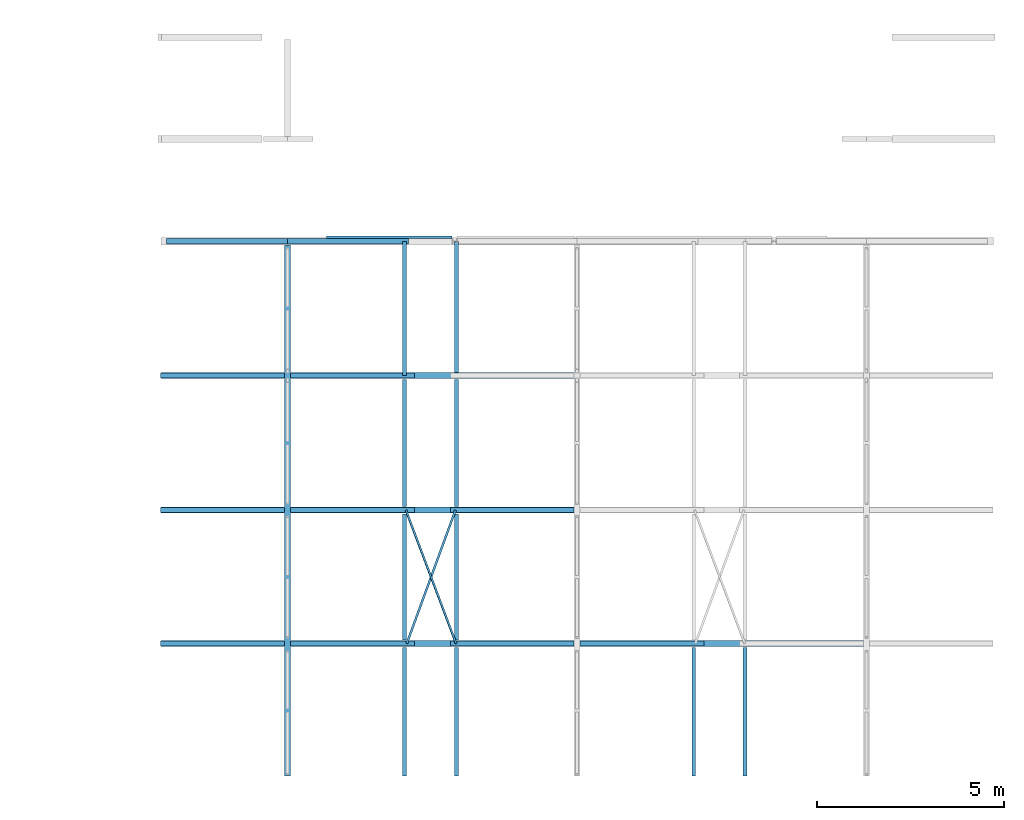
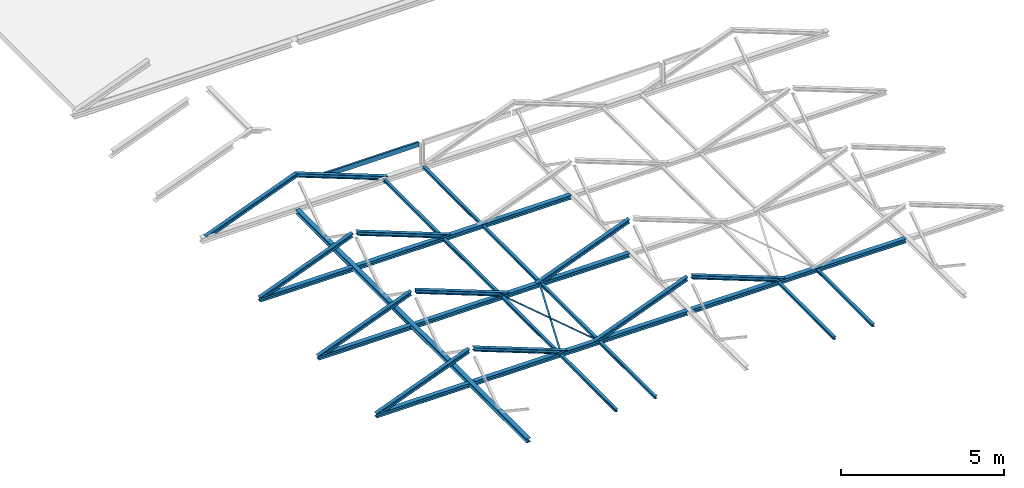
# One storey, part 2 of 10: 32 beams.
"""IFC2X3 building model written with IfcOpenShell, lengths in millimetres."""

from ifc_helpers import new_model, entity, si_unit, converted_unit, derived_unit, direction, frame, frame_2d, origin, place, context, subcontext, project, spatial, polyline, i_section, outline, extrude, clip, halfspace, material, type_object, element, save


model = new_model("IFC2X3")

# Units and contexts
model_context = context("Model", 3, precision=0.01, world=origin(), true_north=direction((6.123031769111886e-17, 1.0)))
body_context = subcontext(model_context, "Body", "Model", "MODEL_VIEW")
ifc_project = project(units=[si_unit("LENGTHUNIT", "METRE", prefix="MILLI"), si_unit("AREAUNIT", "SQUARE_METRE", prefix="MILLI"), si_unit("VOLUMEUNIT", "CUBIC_METRE"), converted_unit("PLANEANGLEUNIT", "DEGREE", entity("IfcPlaneAngleMeasure", 0.017453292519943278), si_unit("PLANEANGLEUNIT", "RADIAN"), dimensions=[0, 0, 0, 0, 0, 0, 0]), si_unit("MASSUNIT", "GRAM", prefix="KILO"), derived_unit("MASSDENSITYUNIT", [(si_unit("MASSUNIT", "GRAM", prefix="KILO"), 1), (si_unit("LENGTHUNIT", "METRE"), -3)]), derived_unit("IONCONCENTRATIONUNIT", [(si_unit("MASSUNIT", "GRAM", prefix="KILO"), 1), (si_unit("LENGTHUNIT", "METRE"), -3)]), derived_unit("MOMENTOFINERTIAUNIT", [(si_unit("LENGTHUNIT", "METRE"), 4)]), si_unit("TIMEUNIT", "SECOND"), si_unit("FREQUENCYUNIT", "HERTZ"), si_unit("THERMODYNAMICTEMPERATUREUNIT", "DEGREE_CELSIUS"), derived_unit("THERMALTRANSMITTANCEUNIT", [(si_unit("MASSUNIT", "GRAM", prefix="KILO"), 1), (si_unit("THERMODYNAMICTEMPERATUREUNIT", "KELVIN"), -1), (si_unit("TIMEUNIT", "SECOND"), -3)]), derived_unit("THERMALCONDUCTANCEUNIT", [(si_unit("MASSUNIT", "GRAM", prefix="KILO"), 1), (si_unit("THERMODYNAMICTEMPERATUREUNIT", "KELVIN"), -1), (si_unit("TIMEUNIT", "SECOND"), -3), (si_unit("LENGTHUNIT", "METRE"), 1)]), derived_unit("VOLUMETRICFLOWRATEUNIT", [(si_unit("LENGTHUNIT", "METRE", prefix="DECI"), 3), (si_unit("TIMEUNIT", "SECOND"), -1)]), derived_unit("MASSFLOWRATEUNIT", [(si_unit("MASSUNIT", "GRAM", prefix="KILO"), 1), (si_unit("TIMEUNIT", "SECOND"), -1)]), derived_unit("ROTATIONALFREQUENCYUNIT", [(si_unit("TIMEUNIT", "SECOND"), -1)]), si_unit("ELECTRICCURRENTUNIT", "AMPERE"), si_unit("ELECTRICVOLTAGEUNIT", "VOLT"), si_unit("POWERUNIT", "WATT"), si_unit("FORCEUNIT", "NEWTON", prefix="KILO"), si_unit("ILLUMINANCEUNIT", "LUX"), si_unit("LUMINOUSFLUXUNIT", "LUMEN"), si_unit("LUMINOUSINTENSITYUNIT", "CANDELA"), si_unit("ENERGYUNIT", "JOULE"), derived_unit("USERDEFINED", [(si_unit("MASSUNIT", "GRAM", prefix="KILO"), -1), (si_unit("LENGTHUNIT", "METRE"), -2), (si_unit("TIMEUNIT", "SECOND"), 3), (si_unit("LUMINOUSFLUXUNIT", "LUMEN"), 1)]), derived_unit("USERDEFINED", [(si_unit("MASSUNIT", "GRAM", prefix="KILO"), 1), (si_unit("TIMEUNIT", "SECOND"), -3), (si_unit("LENGTHUNIT", "METRE"), 3), (si_unit("ELECTRICCURRENTUNIT", "AMPERE"), -2)]), derived_unit("SOUNDPOWERUNIT", [(si_unit("MASSUNIT", "GRAM", prefix="KILO"), 1), (si_unit("TIMEUNIT", "SECOND"), -3), (si_unit("LENGTHUNIT", "METRE"), 2)]), derived_unit("SOUNDPRESSUREUNIT", [(si_unit("MASSUNIT", "GRAM", prefix="KILO"), 1), (si_unit("LENGTHUNIT", "METRE"), -1), (si_unit("TIMEUNIT", "SECOND"), -2)]), derived_unit("LINEARVELOCITYUNIT", [(si_unit("LENGTHUNIT", "METRE"), 1), (si_unit("TIMEUNIT", "SECOND"), -1)]), si_unit("PRESSUREUNIT", "PASCAL"), derived_unit("USERDEFINED", [(si_unit("MASSUNIT", "GRAM", prefix="KILO"), 1), (si_unit("LENGTHUNIT", "METRE"), -2), (si_unit("TIMEUNIT", "SECOND"), -2)]), derived_unit("LINEARFORCEUNIT", [(si_unit("MASSUNIT", "GRAM", prefix="KILO"), 1), (si_unit("TIMEUNIT", "SECOND"), -2)]), derived_unit("PLANARFORCEUNIT", [(si_unit("MASSUNIT", "GRAM", prefix="KILO"), 1), (si_unit("LENGTHUNIT", "METRE"), -1), (si_unit("TIMEUNIT", "SECOND"), -2)]), derived_unit("SPECIFICHEATCAPACITYUNIT", [(si_unit("THERMODYNAMICTEMPERATUREUNIT", "KELVIN"), -1), (si_unit("LENGTHUNIT", "METRE"), 2), (si_unit("TIMEUNIT", "SECOND"), -2)]), derived_unit("HEATFLUXDENSITYUNIT", [(si_unit("MASSUNIT", "GRAM", prefix="KILO"), 1), (si_unit("TIMEUNIT", "SECOND"), -3)]), derived_unit("HEATINGVALUEUNIT", [(si_unit("LENGTHUNIT", "METRE"), 2), (si_unit("TIMEUNIT", "SECOND"), -2)]), derived_unit("VAPORPERMEABILITYUNIT", [(si_unit("LENGTHUNIT", "METRE"), -1), (si_unit("TIMEUNIT", "SECOND"), 1)]), derived_unit("DYNAMICVISCOSITYUNIT", [(si_unit("MASSUNIT", "GRAM", prefix="KILO"), 1), (si_unit("TIMEUNIT", "SECOND"), -1), (si_unit("LENGTHUNIT", "METRE"), -1)]), derived_unit("THERMALEXPANSIONCOEFFICIENTUNIT", [(si_unit("THERMODYNAMICTEMPERATUREUNIT", "KELVIN"), -1)]), derived_unit("MODULUSOFELASTICITYUNIT", [(si_unit("MASSUNIT", "GRAM", prefix="KILO"), 1), (si_unit("LENGTHUNIT", "METRE"), -1), (si_unit("TIMEUNIT", "SECOND"), -2)]), derived_unit("ISOTHERMALMOISTURECAPACITYUNIT", [(si_unit("MASSUNIT", "GRAM", prefix="KILO"), -1), (si_unit("LENGTHUNIT", "METRE"), 3)]), derived_unit("MOISTUREDIFFUSIVITYUNIT", [(si_unit("TIMEUNIT", "SECOND"), -1), (si_unit("LENGTHUNIT", "METRE"), 2)]), derived_unit("MASSPERLENGTHUNIT", [(si_unit("MASSUNIT", "GRAM", prefix="KILO"), 1), (si_unit("LENGTHUNIT", "METRE"), -1)]), derived_unit("THERMALRESISTANCEUNIT", [(si_unit("MASSUNIT", "GRAM", prefix="KILO"), -1), (si_unit("TIMEUNIT", "SECOND"), 3), (si_unit("THERMODYNAMICTEMPERATUREUNIT", "KELVIN"), 1)]), derived_unit("ACCELERATIONUNIT", [(si_unit("LENGTHUNIT", "METRE"), 1), (si_unit("TIMEUNIT", "SECOND"), -2)]), derived_unit("ANGULARVELOCITYUNIT", [(si_unit("TIMEUNIT", "SECOND"), -1), (si_unit("PLANEANGLEUNIT", "RADIAN"), 1)]), derived_unit("LINEARSTIFFNESSUNIT", [(si_unit("MASSUNIT", "GRAM", prefix="KILO"), 1), (si_unit("TIMEUNIT", "SECOND"), -2)]), derived_unit("WARPINGCONSTANTUNIT", [(si_unit("LENGTHUNIT", "METRE"), 6)]), derived_unit("LINEARMOMENTUNIT", [(si_unit("MASSUNIT", "GRAM", prefix="KILO"), 1), (si_unit("LENGTHUNIT", "METRE"), 1), (si_unit("TIMEUNIT", "SECOND"), -2)]), derived_unit("TORQUEUNIT", [(si_unit("MASSUNIT", "GRAM", prefix="KILO"), 1), (si_unit("LENGTHUNIT", "METRE"), 2), (si_unit("TIMEUNIT", "SECOND"), -2)])], contexts=[model_context])

# Site, building, storey
site_placement = place(None, origin())
site = spatial("IfcSite", under=ifc_project, at=site_placement, Name="Default", CompositionType="ELEMENT")
building_placement = place(site_placement, origin())
building = spatial("IfcBuilding", under=site, at=building_placement, CompositionType="ELEMENT")
storey_placement = place(building_placement, frame((0.0, 0.0, 10840.0)))
storey = spatial("IfcBuildingStorey", under=building, at=storey_placement, Name="V3 dakvloer", CompositionType="ELEMENT", Elevation=10839.99999999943)

# Beams
ifc_material = material(Name="Metal - Steel - S235 JRG2 (standaard)")
beam_type_1 = type_object("IfcBeamType", Name="btl_staal - HE(a-b-m):HEA160.", PredefinedType="NOTDEFINED")
beam_1_placement = place(storey_placement, frame((6843.000781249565, 13894.605013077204, -4.289062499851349)))
element("IfcBeam", 1, at=beam_1_placement, inside=storey, type_object=beam_type_1, material=ifc_material, Name="btl_staal - HE(a-b-m):HEA160.", ObjectType="btl_staal - HE(a-b-m):HEA160.", context=body_context, shape_type="SweptSolid", body=[
    extrude(i_section(OverallWidth=160.00000000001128, OverallDepth=151.99999999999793, WebThickness=5.999999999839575, FlangeThickness=9.000000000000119, at=frame_2d((-1.0871303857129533e-12, -1.0871303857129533e-12), x_axis=(0.0, 1.0))), frame((0.0, 0.0, -76.0), z_axis=(1.0, 0.0, 0.0), x_axis=(0.0, 0.0, -1.0)), (0.0, 0.0, 1.0), 3292.8955165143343),
])
beam_2_placement = place(storey_placement, frame((10315.896298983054, 13894.60501307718, -4.289062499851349)))
element("IfcBeam", 2, at=beam_2_placement, inside=storey, type_object=beam_type_1, material=ifc_material, Name="btl_staal - HE(a-b-m):HEA160.", ObjectType="btl_staal - HE(a-b-m):HEA160.", context=body_context, shape_type="SweptSolid", body=[
    extrude(i_section(OverallWidth=160.00000000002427, OverallDepth=151.99999999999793, WebThickness=5.999999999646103, FlangeThickness=9.000000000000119, at=frame_2d((-1.0871303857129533e-12, 3.254285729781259e-12), x_axis=(0.0, 1.0))), frame((0.0, 0.0, -76.0), z_axis=(1.0, 0.0, 0.0), x_axis=(0.0, 0.0, -1.0)), (0.0, 0.0, 1.0), 7579.747024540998),
])
beam_3_placement = place(storey_placement, frame((6843.000781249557, 10294.60501307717, -4.289062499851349)))
element("IfcBeam", 3, at=beam_3_placement, inside=storey, type_object=beam_type_1, material=ifc_material, Name="btl_staal - HE(a-b-m):HEA160.", ObjectType="btl_staal - HE(a-b-m):HEA160.", context=body_context, shape_type="SweptSolid", body=[
    extrude(i_section(OverallWidth=160.00000000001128, OverallDepth=151.99999999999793, WebThickness=5.999999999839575, FlangeThickness=9.000000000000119, at=frame_2d((-1.0871303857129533e-12, 3.247180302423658e-12), x_axis=(0.0, 1.0))), frame((0.0, 0.0, -76.0), z_axis=(1.0, 0.0, 0.0), x_axis=(0.0, 0.0, -1.0)), (0.0, 0.0, 1.0), 3292.8955165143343),
])
beam_4_placement = place(storey_placement, frame((10315.896298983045, 10294.605013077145, -4.289062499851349)))
element("IfcBeam", 4, at=beam_4_placement, inside=storey, type_object=beam_type_1, material=ifc_material, Name="btl_staal - HE(a-b-m):HEA160.", ObjectType="btl_staal - HE(a-b-m):HEA160.", context=body_context, shape_type="SweptSolid", body=[
    extrude(i_section(OverallWidth=160.00000000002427, OverallDepth=151.99999999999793, WebThickness=5.999999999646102, FlangeThickness=9.000000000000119, at=frame_2d((-1.0871303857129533e-12, 1.0800249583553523e-12), x_axis=(0.0, 1.0))), frame((0.0, 0.0, -76.0), z_axis=(1.0, 0.0, 0.0), x_axis=(0.0, 0.0, -1.0)), (0.0, 0.0, 1.0), 7579.747024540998),
])
beam_5_placement = place(storey_placement, frame((6843.000781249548, 6719.605013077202, -4.289062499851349)))
element("IfcBeam", 5, at=beam_5_placement, inside=storey, type_object=beam_type_1, material=ifc_material, Name="btl_staal - HE(a-b-m):HEA160.", ObjectType="btl_staal - HE(a-b-m):HEA160.", context=body_context, shape_type="SweptSolid", body=[
    extrude(i_section(OverallWidth=160.00000000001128, OverallDepth=151.99999999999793, WebThickness=5.999999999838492, FlangeThickness=9.000000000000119, at=frame_2d((-1.0871303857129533e-12, 0.0), x_axis=(0.0, 1.0))), frame((0.0, 0.0, -76.0), z_axis=(1.0, 0.0, 0.0), x_axis=(0.0, 0.0, -1.0)), (0.0, 0.0, 1.0), 3292.8955165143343),
])
beam_6_placement = place(storey_placement, frame((10315.896298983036, 6719.605013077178, -4.289062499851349)))
element("IfcBeam", 6, at=beam_6_placement, inside=storey, type_object=beam_type_1, material=ifc_material, Name="btl_staal - HE(a-b-m):HEA160.", ObjectType="btl_staal - HE(a-b-m):HEA160.", context=body_context, shape_type="SweptSolid", body=[
    extrude(i_section(OverallWidth=160.00000000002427, OverallDepth=151.99999999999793, WebThickness=5.99999999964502, FlangeThickness=9.000000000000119, at=frame_2d((-1.0871303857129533e-12, 1.0800249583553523e-12), x_axis=(0.0, 1.0))), frame((0.0, 0.0, -76.0), z_axis=(1.0, 0.0, 0.0), x_axis=(0.0, 0.0, -1.0)), (0.0, 0.0, 1.0), 7579.747024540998),
])
beam_7_placement = place(storey_placement, frame((18054.986142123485, 6719.605013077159, -4.289062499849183)))
element("IfcBeam", 7, at=beam_7_placement, inside=storey, type_object=beam_type_1, material=ifc_material, Name="btl_staal - HE(a-b-m):HEA160.", ObjectType="btl_staal - HE(a-b-m):HEA160.", context=body_context, shape_type="SweptSolid", body=[
    extrude(i_section(OverallWidth=160.00000000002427, OverallDepth=152.0000000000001, WebThickness=5.99999999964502, FlangeThickness=9.000000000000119, at=frame_2d((2.1671553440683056e-12, 1.0800249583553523e-12), x_axis=(0.0, 1.0))), frame((0.0, 0.0, -76.0), z_axis=(1.0, 0.0, 0.0), x_axis=(0.0, 0.0, -1.0)), (0.0, 0.0, 1.0), 7589.093750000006),
])
beam_8_placement = place(storey_placement, frame((10225.896298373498, 17394.605013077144, -4.289062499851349), z_axis=(0.0, 0.0, 1.0), x_axis=(0.0, -1.0, 0.0)))
element("IfcBeam", 8, at=beam_8_placement, inside=storey, type_object=beam_type_1, material=ifc_material, Name="btl_staal - HE(a-b-m):HEA160.", ObjectType="btl_staal - HE(a-b-m):HEA160.", context=body_context, shape_type="SweptSolid", body=[
    extrude(i_section(OverallWidth=160.00000000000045, OverallDepth=151.99999999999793, WebThickness=6.000000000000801, FlangeThickness=9.000000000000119, at=frame_2d((-1.0800249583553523e-12, 1.0871303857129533e-12), x_axis=(0.0, 1.0))), frame((0.0, 0.0, -76.0), z_axis=(1.0, 0.0, 0.0), x_axis=(0.0, 0.0, -1.0)), (0.0, 0.0, 1.0), 14214.119743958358),
])
beam_type_2 = type_object("IfcBeamType", Name="btl_staal - UNP:UNP180.", PredefinedType="NOTDEFINED")
beam_9_placement = place(storey_placement, frame((11273.550618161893, 17583.90501307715, 860.0)))
element("IfcBeam", 9, at=beam_9_placement, inside=storey, type_object=beam_type_2, material=ifc_material, Name="btl_staal - UNP:UNP180.", ObjectType="btl_staal - UNP:UNP180.", context=body_context, shape_type="SweptSolid", body=[
    extrude(outline(polyline([(-90.0, -37.0), (90.0, -37.0), (90.0, 33.0), (79.0, 33.0), (69.18016469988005, -29.0), (-69.18016469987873, -29.0), (-79.0, 33.0), (-90.0, 33.0), (-90.0, -37.0)])), frame((0.0, 17.699999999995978, -90.0), z_axis=(1.0, 0.0, 0.0), x_axis=(0.0, 0.0, -1.0)), (0.0, 0.0, 1.0), 3359.812490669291),
])
beam_type_3 = type_object("IfcBeamType", Name="btl_staal - HE(a-b-m):HEA140", PredefinedType="NOTDEFINED")
beam_10_placement = place(storey_placement, frame((6888.405226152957, 17494.605013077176, 20.040915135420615), z_axis=(-0.35818409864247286, 0.0, 0.9336509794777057), x_axis=(0.9336509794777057, 0.0, 0.35818409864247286)))
element("IfcBeam", 10, at=beam_10_placement, inside=storey, type_object=beam_type_3, material=ifc_material, Name="btl_staal - HE(a-b-m):HEA140", ObjectType="btl_staal - HE(a-b-m):HEA140", context=body_context, shape_type="SweptSolid", body=[
    clip(clip(extrude(i_section(OverallWidth=140.00000000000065, OverallDepth=132.99999999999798, WebThickness=5.500000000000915, FlangeThickness=8.49999999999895, at=frame_2d((2.4087398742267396e-12, 1.0800249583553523e-12), x_axis=(0.0, 1.0))), frame((105.84559730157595, 0.0, -66.5000000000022), z_axis=(1.0, 0.0, 0.0), x_axis=(0.0, 0.0, -1.0)), (0.0, 0.0, 1.0), 3468.7760245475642), halfspace(frame((452.52648219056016, -3574.6216218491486, -133.0), z_axis=(-0.35818409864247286, 0.0, -0.9336509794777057), x_axis=(0.0, 1.0, 0.0)), False)), halfspace(frame((3574.6216218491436, 0.0, 0.0), z_axis=(0.9336508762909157, 0.0, -0.3581843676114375), x_axis=(0.0, -1.0, 0.0)), False)),
])
beam_11_placement = place(storey_placement, frame((10225.854204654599, 17494.605013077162, 1300.413538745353), z_axis=(0.3581846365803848, 0.0, 0.9336507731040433), x_axis=(0.9336507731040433, 0.0, -0.3581846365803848)))
element("IfcBeam", 11, at=beam_11_placement, inside=storey, type_object=beam_type_3, material=ifc_material, Name="btl_staal - HE(a-b-m):HEA140", ObjectType="btl_staal - HE(a-b-m):HEA140", context=body_context, shape_type="SweptSolid", body=[
    clip(clip(extrude(i_section(OverallWidth=140.00000000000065, OverallDepth=132.99999999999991, WebThickness=5.500000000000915, FlangeThickness=8.500000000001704, at=frame_2d((1.0089706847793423e-12, 1.0800249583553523e-12), x_axis=(0.0, 1.0))), frame((0.0, 0.0, -66.5000000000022), z_axis=(1.0, 0.0, 0.0), x_axis=(0.0, 0.0, -1.0)), (0.0, 0.0, 1.0), 3468.7708149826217), halfspace(frame((3468.770814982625, -3615.704498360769, 0.0), z_axis=(0.35818463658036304, 0.0, -0.9336507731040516), x_axis=(0.0, 1.0, 0.0)), False)), halfspace(frame((0.0, 0.0, 0.0), z_axis=(-0.9336508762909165, 0.0, -0.3581843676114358), x_axis=(0.0, 1.0, 0.0)), False)),
])
beam_12_placement = place(storey_placement, frame((6824.986142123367, 13894.605013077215, -4.2890624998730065), z_axis=(-0.35818409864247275, 0.0, 0.9336509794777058), x_axis=(0.9336509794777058, 0.0, 0.35818409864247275)))
element("IfcBeam", 12, at=beam_12_placement, inside=storey, type_object=beam_type_3, material=ifc_material, Name="btl_staal - HE(a-b-m):HEA140", ObjectType="btl_staal - HE(a-b-m):HEA140", context=body_context, shape_type="SweptSolid", body=[
    clip(clip(extrude(i_section(OverallWidth=139.9999999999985, OverallDepth=133.00000000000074, WebThickness=5.500000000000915, FlangeThickness=8.500000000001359, at=frame_2d((-8.050449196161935e-12, 3.247180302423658e-12), x_axis=(0.0, 1.0))), frame((0.0, 0.0, -66.50000000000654), z_axis=(1.0, 0.0, 0.0), x_axis=(0.0, 0.0, -1.0)), (0.0, 0.0, 1.0), 3556.907483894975), halfspace(frame((0.0, 3617.080651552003, 0.0), z_axis=(-0.358184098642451, 0.0, -0.9336509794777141), x_axis=(0.0, -1.0, 0.0)), False)), halfspace(frame((3556.9074838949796, -3617.0806515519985, 0.0), z_axis=(0.9336509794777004, 0.0, -0.35818409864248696), x_axis=(0.0, 1.0, 0.0)), False)),
])
beam_13_placement = place(storey_placement, frame((10249.704755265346, 13894.605013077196, 1291.2635427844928), z_axis=(0.35818463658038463, 0.0, 0.9336507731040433), x_axis=(0.9336507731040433, 0.0, -0.35818463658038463)))
element("IfcBeam", 13, at=beam_13_placement, inside=storey, type_object=beam_type_3, material=ifc_material, Name="btl_staal - HE(a-b-m):HEA140", ObjectType="btl_staal - HE(a-b-m):HEA140", context=body_context, shape_type="SweptSolid", body=[
    clip(clip(extrude(outline(polyline([(-70.0, -58.0), (-70.0, -66.49999999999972), (70.0, -66.49999999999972), (70.0, -58.0), (2.7499999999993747, -58.0), (2.7499999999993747, 58.0), (70.0, 58.0), (70.0, 66.50000000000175), (-70.0, 66.50000000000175), (-70.0, 58.0), (-2.7500000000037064, 58.0), (-2.7500000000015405, -58.0), (-70.0, -58.0)])), frame((60.184755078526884, 0.0, -66.49999999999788), z_axis=(-1.0, 0.0, 0.0), x_axis=(0.0, 1.0, 0.0)), (0.0, 0.0, -1.0), 3553.7692864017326), halfspace(frame((3616.996579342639, -3616.9965793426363, 0.0), z_axis=(0.3581846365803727, 0.0, -0.9336507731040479), x_axis=(0.0, 1.0, 0.0)), False)), halfspace(frame((60.1847550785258, 3616.996579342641, 0.0), z_axis=(-0.9336507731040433, 0.0, -0.35818463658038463), x_axis=(0.0, -1.0, 0.0)), False)),
])
beam_14_placement = place(storey_placement, frame((6824.986142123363, 10294.605013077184, -4.2890624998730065), z_axis=(-0.35818409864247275, 0.0, 0.9336509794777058), x_axis=(0.9336509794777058, 0.0, 0.35818409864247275)))
element("IfcBeam", 14, at=beam_14_placement, inside=storey, type_object=beam_type_3, material=ifc_material, Name="btl_staal - HE(a-b-m):HEA140", ObjectType="btl_staal - HE(a-b-m):HEA140", context=body_context, shape_type="SweptSolid", body=[
    clip(clip(extrude(i_section(OverallWidth=139.9999999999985, OverallDepth=132.99999999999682, WebThickness=5.500000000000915, FlangeThickness=8.500000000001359, at=frame_2d((-9.251266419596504e-12, 1.0800249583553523e-12), x_axis=(0.0, 1.0))), frame((0.0, 0.0, -66.50000000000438), z_axis=(1.0, 0.0, 0.0), x_axis=(0.0, 0.0, -1.0)), (0.0, 0.0, 1.0), 3556.9074838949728), halfspace(frame((0.0, 3617.080651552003, 0.0), z_axis=(-0.35818409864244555, 0.0, -0.9336509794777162), x_axis=(0.0, -1.0, 0.0)), False)), halfspace(frame((3556.9074838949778, -3617.0806515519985, 0.0), z_axis=(0.9336509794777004, 0.0, -0.35818409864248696), x_axis=(0.0, 1.0, 0.0)), False)),
])
beam_15_placement = place(storey_placement, frame((10249.704755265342, 10294.605013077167, 1291.2635427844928), z_axis=(0.35818463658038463, 0.0, 0.9336507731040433), x_axis=(0.9336507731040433, 0.0, -0.35818463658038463)))
element("IfcBeam", 15, at=beam_15_placement, inside=storey, type_object=beam_type_3, material=ifc_material, Name="btl_staal - HE(a-b-m):HEA140", ObjectType="btl_staal - HE(a-b-m):HEA140", context=body_context, shape_type="SweptSolid", body=[
    clip(clip(extrude(outline(polyline([(-70.0, -58.0), (-70.0, -66.49999999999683), (70.0, -66.50000000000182), (70.0, -58.0), (2.7499999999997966, -58.0), (2.7500000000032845, 58.0), (70.0, 58.0), (70.0, 66.49999999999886), (-70.0, 66.50000000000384), (-70.0, 58.0), (-2.7499999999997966, 58.0), (-2.7500000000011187, -58.0), (-70.0, -58.0)])), frame((60.18475507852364, 0.0, -66.5000000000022), z_axis=(-1.0, 0.0, 0.0), x_axis=(0.0, 1.0, 0.0)), (0.0, 0.0, -1.0), 3553.7692864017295), halfspace(frame((3616.9965793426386, -3616.9965793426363, 0.0), z_axis=(0.35818463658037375, 0.0, -0.9336507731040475), x_axis=(0.0, 1.0, 0.0)), False)), halfspace(frame((60.184755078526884, 3616.996579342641, 0.0), z_axis=(-0.9336507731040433, 0.0, -0.35818463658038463), x_axis=(0.0, -1.0, 0.0)), False)),
])
beam_16_placement = place(storey_placement, frame((14585.411775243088, 10294.605013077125, 0.06058239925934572), z_axis=(-0.358184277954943, 0.0, 0.9336509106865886), x_axis=(0.9336509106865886, 0.0, 0.358184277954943)))
element("IfcBeam", 16, at=beam_16_placement, inside=storey, type_object=beam_type_3, material=ifc_material, Name="btl_staal - HE(a-b-m):HEA140", ObjectType="btl_staal - HE(a-b-m):HEA140", context=body_context, shape_type="SweptSolid", body=[
    clip(clip(extrude(outline(polyline([(-70.0, -58.0), (-70.0, -66.4999999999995), (70.0, -66.4999999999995), (70.0, -58.0), (2.7500000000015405, -58.0), (2.7500000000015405, 58.0), (70.0, 58.0), (70.0, 66.4999999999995), (-70.0, 66.50000000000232), (-70.0, 58.0), (-2.749999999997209, 58.0), (-2.7499999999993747, -58.0), (-70.0, -58.0)])), frame((0.0, 0.0, -66.50000000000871), z_axis=(-1.0, 0.0, 0.0), x_axis=(0.0, 1.0, 0.0)), (0.0, 0.0, -1.0), 3544.7663885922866), halfspace(frame((0.0, 3565.0, -4.658748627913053), z_axis=(-0.358184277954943, 0.0, -0.9336509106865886), x_axis=(0.0, -1.0, 0.0)), False)), halfspace(frame((3565.0019693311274, -3565.0, 52.74650381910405), z_axis=(0.9336509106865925, 0.0, -0.35818427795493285), x_axis=(0.0, 1.0, 0.0)), False)),
])
beam_17_placement = place(storey_placement, frame((6824.986142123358, 6719.60501307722, -4.2890624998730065), z_axis=(-0.35818409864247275, 0.0, 0.9336509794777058), x_axis=(0.9336509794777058, 0.0, 0.35818409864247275)))
element("IfcBeam", 17, at=beam_17_placement, inside=storey, type_object=beam_type_3, material=ifc_material, Name="btl_staal - HE(a-b-m):HEA140", ObjectType="btl_staal - HE(a-b-m):HEA140", context=body_context, shape_type="SweptSolid", body=[
    clip(clip(extrude(i_section(OverallWidth=140.00000000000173, OverallDepth=133.00000000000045, WebThickness=5.499999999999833, FlangeThickness=8.50000000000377, at=frame_2d((-5.8264504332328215e-12, -5.400124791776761e-13), x_axis=(0.0, 1.0))), frame((0.0, 0.0, -66.50000000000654), z_axis=(1.0, 0.0, 0.0), x_axis=(0.0, 0.0, -1.0)), (0.0, 0.0, 1.0), 3556.9074838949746), halfspace(frame((0.0, 3617.080651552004, 0.0), z_axis=(-0.35818409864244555, 0.0, -0.9336509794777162), x_axis=(0.0, -1.0, 0.0)), False)), halfspace(frame((3556.907483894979, -3617.0806515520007, 0.0), z_axis=(0.9336509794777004, 0.0, -0.35818409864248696), x_axis=(0.0, 1.0, 0.0)), False)),
])
beam_18_placement = place(storey_placement, frame((10249.704755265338, 6719.605013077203, 1291.2635427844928), z_axis=(0.35818463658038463, 0.0, 0.9336507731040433), x_axis=(0.9336507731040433, 0.0, -0.35818463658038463)))
element("IfcBeam", 18, at=beam_18_placement, inside=storey, type_object=beam_type_3, material=ifc_material, Name="btl_staal - HE(a-b-m):HEA140", ObjectType="btl_staal - HE(a-b-m):HEA140", context=body_context, shape_type="SweptSolid", body=[
    clip(clip(extrude(outline(polyline([(-70.0, -58.0), (-70.0, -66.49999999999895), (70.0, -66.49999999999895), (70.0, -58.0), (2.750000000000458, -58.0), (2.750000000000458, 58.0), (70.0, 58.0), (70.0, 66.50000000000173), (-70.0, 66.50000000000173), (-70.0, 58.0), (-2.7499999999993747, 58.0), (-2.7499999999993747, -58.0), (-70.0, -58.0)])), frame((60.18475507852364, 0.0, -66.50000000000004), z_axis=(-1.0, 0.0, 0.0), x_axis=(0.0, 1.0, 0.0)), (0.0, 0.0, -1.0), 3553.7692864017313), halfspace(frame((3616.996579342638, -3616.9965793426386, 0.0), z_axis=(0.35818463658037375, 0.0, -0.9336507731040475), x_axis=(0.0, 1.0, 0.0)), False)), halfspace(frame((60.1847550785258, 3616.9965793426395, 0.0), z_axis=(-0.9336507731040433, 0.0, -0.35818463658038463), x_axis=(0.0, -1.0, 0.0)), False)),
])
beam_19_placement = place(storey_placement, frame((14585.411775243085, 6719.605013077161, 0.06058239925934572), z_axis=(-0.358184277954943, 0.0, 0.9336509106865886), x_axis=(0.9336509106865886, 0.0, 0.358184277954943)))
element("IfcBeam", 19, at=beam_19_placement, inside=storey, type_object=beam_type_3, material=ifc_material, Name="btl_staal - HE(a-b-m):HEA140", ObjectType="btl_staal - HE(a-b-m):HEA140", context=body_context, shape_type="SweptSolid", body=[
    clip(clip(extrude(outline(polyline([(-70.0, -58.0), (-70.0, -66.50000000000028), (70.0, -66.49999999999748), (70.0, -58.0), (2.7499999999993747, -58.0), (2.7499999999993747, 58.0), (70.0, 58.0), (70.0, 66.50000000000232), (-70.0, 66.50000000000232), (-70.0, 58.0), (-2.750000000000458, 58.0), (-2.750000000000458, -58.0), (-70.0, -58.0)])), frame((0.0, 0.0, -66.50000000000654), z_axis=(-1.0, 0.0, 0.0), x_axis=(0.0, 1.0, 0.0)), (0.0, 0.0, -1.0), 3544.766388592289), halfspace(frame((0.0, 3565.0, -4.658748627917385), z_axis=(-0.358184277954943, 0.0, -0.9336509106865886), x_axis=(0.0, -1.0, 0.0)), False)), halfspace(frame((3565.001969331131, -3565.0, 52.74650381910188), z_axis=(0.9336509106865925, 0.0, -0.35818427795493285), x_axis=(0.0, 1.0, 0.0)), False)),
])
beam_20_placement = place(storey_placement, frame((18047.86281122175, 6719.605013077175, 1272.4713700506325), z_axis=(0.3581844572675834, 0.0, 0.9336508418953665), x_axis=(0.9336508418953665, 0.0, -0.3581844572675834)))
element("IfcBeam", 20, at=beam_20_placement, inside=storey, type_object=beam_type_3, material=ifc_material, Name="btl_staal - HE(a-b-m):HEA140", ObjectType="btl_staal - HE(a-b-m):HEA140", context=body_context, shape_type="SweptSolid", body=[
    clip(clip(extrude(i_section(OverallWidth=139.99999999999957, OverallDepth=132.99999999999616, WebThickness=5.499999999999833, FlangeThickness=8.499999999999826, at=frame_2d((-4.426681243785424e-12, 1.0800249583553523e-12), x_axis=(0.0, 1.0))), frame((7.629544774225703, 0.0, -66.50000000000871), z_axis=(1.0, 0.0, 0.0), x_axis=(0.0, 0.0, -1.0)), (0.0, 0.0, 1.0), 3556.90377498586), halfspace(frame((3217.8528330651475, 3612.386801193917, -133.0), z_axis=(0.35818445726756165, 0.0, -0.9336508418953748), x_axis=(0.0, -1.0, 0.0)), False)), halfspace(frame((0.0, 3612.386801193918, 19.887325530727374), z_axis=(-0.9336508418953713, 0.0, -0.3581844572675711), x_axis=(0.0, -1.0, 0.0)), False)),
])
beam_type_4 = type_object("IfcBeamType", Name="btl_staal - HE(a-b-m):HEA100", PredefinedType="NOTDEFINED")
beam_21_placement = place(storey_placement, frame((13354.032140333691, 17490.105013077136, -4.046874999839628), z_axis=(0.0, 0.0, 1.0), x_axis=(0.0, -1.0, 0.0)))
element("IfcBeam", 21, at=beam_21_placement, inside=storey, type_object=beam_type_4, material=ifc_material, Name="btl_staal - HE(a-b-m):HEA100", ObjectType="btl_staal - HE(a-b-m):HEA100", context=body_context, shape_type="SweptSolid", body=[
    extrude(i_section(OverallWidth=100.0000000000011, OverallDepth=95.99999999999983, WebThickness=5.0000000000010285, FlangeThickness=8.000000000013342, at=frame_2d((-2.1671553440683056e-12, 1.0835776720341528e-12), x_axis=(0.0, 1.0))), frame((0.0, 0.0, -48.0), z_axis=(1.0, 0.0, 0.0), x_axis=(0.0, 0.0, -1.0)), (0.0, 0.0, 1.0), 3595.4999999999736),
])
beam_22_placement = place(storey_placement, frame((13354.032140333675, 6619.605013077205, -4.046874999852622), z_axis=(0.0, 0.0, 1.0), x_axis=(0.0, -1.0, 0.0)))
element("IfcBeam", 22, at=beam_22_placement, inside=storey, type_object=beam_type_4, material=ifc_material, Name="btl_staal - HE(a-b-m):HEA100", ObjectType="btl_staal - HE(a-b-m):HEA100", context=body_context, shape_type="SweptSolid", body=[
    extrude(i_section(OverallWidth=100.0000000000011, OverallDepth=95.99999999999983, WebThickness=5.0000000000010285, FlangeThickness=8.000000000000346, at=frame_2d((-2.1671553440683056e-12, 1.0835776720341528e-12), x_axis=(0.0, 1.0))), frame((0.0, 0.0, -48.0), z_axis=(1.0, 0.0, 0.0), x_axis=(0.0, 0.0, -1.0)), (0.0, 0.0, 1.0), 3439.119743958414),
])
beam_23_placement = place(storey_placement, frame((13354.032140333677, 10194.605013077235, -4.046874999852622), z_axis=(0.0, 0.0, 1.0), x_axis=(0.0, -1.0, 0.0)))
element("IfcBeam", 23, at=beam_23_placement, inside=storey, type_object=beam_type_4, material=ifc_material, Name="btl_staal - HE(a-b-m):HEA100", ObjectType="btl_staal - HE(a-b-m):HEA100", context=body_context, shape_type="SweptSolid", body=[
    extrude(i_section(OverallWidth=100.0000000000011, OverallDepth=95.99999999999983, WebThickness=5.0000000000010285, FlangeThickness=8.000000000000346, at=frame_2d((-2.1671553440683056e-12, 1.0835776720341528e-12), x_axis=(0.0, 1.0))), frame((0.0, 0.0, -48.0), z_axis=(1.0, 0.0, 0.0), x_axis=(0.0, 0.0, -1.0)), (0.0, 0.0, 1.0), 3375.0000000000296),
])
beam_24_placement = place(storey_placement, frame((13354.032140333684, 13794.605013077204, -4.046874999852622), z_axis=(0.0, 0.0, 1.0), x_axis=(0.0, -1.0, 0.0)))
element("IfcBeam", 24, at=beam_24_placement, inside=storey, type_object=beam_type_4, material=ifc_material, Name="btl_staal - HE(a-b-m):HEA100", ObjectType="btl_staal - HE(a-b-m):HEA100", context=body_context, shape_type="SweptSolid", body=[
    extrude(i_section(OverallWidth=100.0000000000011, OverallDepth=95.99999999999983, WebThickness=5.0000000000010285, FlangeThickness=8.000000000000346, at=frame_2d((-2.1671553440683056e-12, -1.0835776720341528e-12), x_axis=(0.0, 1.0))), frame((0.0, 0.0, -48.0), z_axis=(1.0, 0.0, 0.0), x_axis=(0.0, 0.0, -1.0)), (0.0, 0.0, 1.0), 3399.99999999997),
])
beam_25_placement = place(storey_placement, frame((14746.896356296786, 17490.10501307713, -4.046874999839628), z_axis=(0.0, 0.0, 1.0), x_axis=(0.0, -1.0, 0.0)))
element("IfcBeam", 25, at=beam_25_placement, inside=storey, type_object=beam_type_4, material=ifc_material, Name="btl_staal - HE(a-b-m):HEA100", ObjectType="btl_staal - HE(a-b-m):HEA100", context=body_context, shape_type="SweptSolid", body=[
    extrude(i_section(OverallWidth=100.0000000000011, OverallDepth=95.99999999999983, WebThickness=5.0000000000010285, FlangeThickness=8.000000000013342, at=frame_2d((-2.1671553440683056e-12, 1.0835776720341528e-12), x_axis=(0.0, 1.0))), frame((0.0, 0.0, -48.0), z_axis=(1.0, 0.0, 0.0), x_axis=(0.0, 0.0, -1.0)), (0.0, 0.0, 1.0), 3515.4999999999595),
])
beam_26_placement = place(storey_placement, frame((14746.896356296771, 6619.605013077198, -4.046874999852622), z_axis=(0.0, 0.0, 1.0), x_axis=(0.0, -1.0, 0.0)))
element("IfcBeam", 26, at=beam_26_placement, inside=storey, type_object=beam_type_4, material=ifc_material, Name="btl_staal - HE(a-b-m):HEA100", ObjectType="btl_staal - HE(a-b-m):HEA100", context=body_context, shape_type="SweptSolid", body=[
    extrude(i_section(OverallWidth=100.0000000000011, OverallDepth=95.99999999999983, WebThickness=5.0000000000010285, FlangeThickness=8.000000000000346, at=frame_2d((-2.1671553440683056e-12, 1.0835776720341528e-12), x_axis=(0.0, 1.0))), frame((0.0, 0.0, -48.0), z_axis=(1.0, 0.0, 0.0), x_axis=(0.0, 0.0, -1.0)), (0.0, 0.0, 1.0), 3439.119743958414),
])
beam_27_placement = place(storey_placement, frame((14746.896356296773, 10194.605013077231, -4.046874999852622), z_axis=(0.0, 0.0, 1.0), x_axis=(0.0, -1.0, 0.0)))
element("IfcBeam", 27, at=beam_27_placement, inside=storey, type_object=beam_type_4, material=ifc_material, Name="btl_staal - HE(a-b-m):HEA100", ObjectType="btl_staal - HE(a-b-m):HEA100", context=body_context, shape_type="SweptSolid", body=[
    extrude(i_section(OverallWidth=100.0000000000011, OverallDepth=95.99999999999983, WebThickness=5.0000000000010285, FlangeThickness=8.000000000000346, at=frame_2d((-2.1671553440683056e-12, 3.2507330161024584e-12), x_axis=(0.0, 1.0))), frame((0.0, 0.0, -48.0), z_axis=(1.0, 0.0, 0.0), x_axis=(0.0, 0.0, -1.0)), (0.0, 0.0, 1.0), 3375.000000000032),
])
beam_28_placement = place(storey_placement, frame((14746.896356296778, 13794.605013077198, -4.046874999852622), z_axis=(0.0, 0.0, 1.0), x_axis=(0.0, -1.0, 0.0)))
element("IfcBeam", 28, at=beam_28_placement, inside=storey, type_object=beam_type_4, material=ifc_material, Name="btl_staal - HE(a-b-m):HEA100", ObjectType="btl_staal - HE(a-b-m):HEA100", context=body_context, shape_type="SweptSolid", body=[
    extrude(i_section(OverallWidth=100.0000000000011, OverallDepth=95.99999999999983, WebThickness=5.0000000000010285, FlangeThickness=8.000000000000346, at=frame_2d((-2.1671553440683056e-12, 1.0835776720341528e-12), x_axis=(0.0, 1.0))), frame((0.0, 0.0, -48.0), z_axis=(1.0, 0.0, 0.0), x_axis=(0.0, 0.0, -1.0)), (0.0, 0.0, 1.0), 3399.99999999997),
])
beam_29_placement = place(storey_placement, frame((21103.123745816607, 6619.605013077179, -4.046874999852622), z_axis=(0.0, 0.0, 1.0), x_axis=(0.0, -1.0, 0.0)))
element("IfcBeam", 29, at=beam_29_placement, inside=storey, type_object=beam_type_4, material=ifc_material, Name="btl_staal - HE(a-b-m):HEA100", ObjectType="btl_staal - HE(a-b-m):HEA100", context=body_context, shape_type="SweptSolid", body=[
    extrude(i_section(OverallWidth=99.99999999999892, OverallDepth=95.99999999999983, WebThickness=4.999999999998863, FlangeThickness=8.000000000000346, at=frame_2d((-2.1671553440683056e-12, -2.1671553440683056e-12), x_axis=(0.0, 1.0))), frame((0.0, 0.0, -48.0), z_axis=(1.0, 0.0, 0.0), x_axis=(0.0, 0.0, -1.0)), (0.0, 0.0, 1.0), 3439.119743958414),
])
beam_30_placement = place(storey_placement, frame((22474.98614212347, 6619.605013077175, -4.046874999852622), z_axis=(0.0, 0.0, 1.0), x_axis=(0.0, -1.0, 0.0)))
element("IfcBeam", 30, at=beam_30_placement, inside=storey, type_object=beam_type_4, material=ifc_material, Name="btl_staal - HE(a-b-m):HEA100", ObjectType="btl_staal - HE(a-b-m):HEA100", context=body_context, shape_type="SweptSolid", body=[
    extrude(i_section(OverallWidth=99.99999999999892, OverallDepth=95.99999999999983, WebThickness=4.999999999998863, FlangeThickness=8.000000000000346, at=frame_2d((-2.1671553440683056e-12, 2.1671553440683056e-12), x_axis=(0.0, 1.0))), frame((0.0, 0.0, -48.0), z_axis=(1.0, 0.0, 0.0), x_axis=(0.0, 0.0, -1.0)), (0.0, 0.0, 1.0), 3439.119743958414),
])
beam_type_5 = type_object("IfcBeamType", Name="btl_staal - Hoeklijn 2.0:L 60X60X8", PredefinedType="NOTDEFINED")
beam_31_placement = place(storey_placement, frame((13389.971042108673, 10294.605013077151, 0.0), z_axis=(0.0, 0.0, 1.0), x_axis=(0.352131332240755, -0.9359505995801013, 0.0)))
element("IfcBeam", 31, at=beam_31_placement, inside=storey, type_object=beam_type_5, material=ifc_material, Name="btl_staal - Hoeklijn 2.0:L 60X60X8", ObjectType="btl_staal - Hoeklijn 2.0:L 60X60X8", context=body_context, shape_type="SweptSolid", body=[
    extrude(outline(polyline([(-37.333333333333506, -22.66666666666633), (22.666666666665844, -22.66666666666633), (22.666666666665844, 37.33333333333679), (14.666666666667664, 37.33333333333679), (14.666666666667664, -14.666666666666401), (-37.333333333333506, -14.666666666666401), (-37.333333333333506, -22.66666666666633)])), frame((0.0, -5.553333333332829, -37.333333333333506), z_axis=(1.0, 0.0, 0.0), x_axis=(0.0, 0.0, -1.0)), (0.0, 0.0, 1.0), 3819.6460385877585),
])
beam_32_placement = place(storey_placement, frame((13418.48190766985, 6719.605013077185, -120.0), z_axis=(0.0, 0.0, 1.0), x_axis=(0.3429396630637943, 0.9393574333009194, 0.0)))
element("IfcBeam", 32, at=beam_32_placement, inside=storey, type_object=beam_type_5, material=ifc_material, Name="btl_staal - Hoeklijn 2.0:L 60X60X8", ObjectType="btl_staal - Hoeklijn 2.0:L 60X60X8", context=body_context, shape_type="SweptSolid", body=[
    extrude(outline(polyline([(-22.666666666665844, -22.66666666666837), (37.333333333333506, -22.66666666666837), (37.333333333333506, -14.666666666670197), (-14.666666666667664, -14.666666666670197), (-14.666666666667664, 37.33333333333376), (-22.666666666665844, 37.33333333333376), (-22.666666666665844, -22.66666666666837)])), frame((0.0, -5.55333333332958, 37.333333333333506), z_axis=(1.0, 0.0, 0.0), x_axis=(0.0, 0.0, -1.0)), (0.0, 0.0, 1.0), 3805.7930594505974),
])

save(model, "model.ifc")
